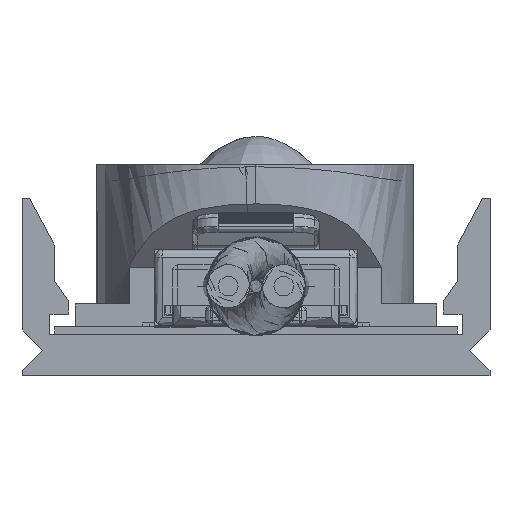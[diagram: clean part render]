
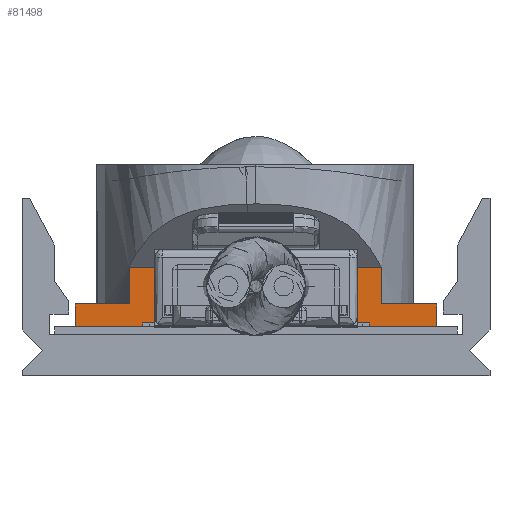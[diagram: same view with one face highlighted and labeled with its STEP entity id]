
A CAD part, left-side view. The second image highlights one B-rep face of the part: STEP entity #81498.
In plain terms, the highlighted planar face has unit normal (-1, 0, 0).
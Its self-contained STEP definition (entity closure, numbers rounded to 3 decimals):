
#1626 = CARTESIAN_POINT ( 'NONE',  ( -6.593, -4.951, 2.36 ) ) ;
#1695 = EDGE_CURVE ( 'NONE', #92420, #58101, #8962, .T. ) ;
#6594 = CARTESIAN_POINT ( 'NONE',  ( -6.593, 12.523, -0.74 ) ) ;
#6977 = DIRECTION ( 'NONE',  ( 0., 1., 0. ) ) ;
#8962 = LINE ( 'NONE', #41757, #102559 ) ;
#9086 = EDGE_CURVE ( 'NONE', #60835, #104367, #88782, .T. ) ;
#10866 = VERTEX_POINT ( 'NONE', #78818 ) ;
#13912 = LINE ( 'NONE', #68345, #107516 ) ;
#15018 = LINE ( 'NONE', #76187, #88841 ) ;
#15025 = EDGE_CURVE ( 'NONE', #39836, #92420, #33095, .T. ) ;
#16459 = CARTESIAN_POINT ( 'NONE',  ( -6.593, 5.012, -0.74 ) ) ;
#16811 = DIRECTION ( 'NONE',  ( 0., -1., 0. ) ) ;
#18877 = CARTESIAN_POINT ( 'NONE',  ( -6.593, 0., 0. ) ) ;
#18958 = ORIENTED_EDGE ( 'NONE', *, *, #26208, .F. ) ;
#25646 = CARTESIAN_POINT ( 'NONE',  ( -6.593, 7.15, 0. ) ) ;
#26208 = EDGE_CURVE ( 'NONE', #10866, #72651, #99198, .T. ) ;
#27923 = VECTOR ( 'NONE', #35132, 1000. ) ;
#28077 = ORIENTED_EDGE ( 'NONE', *, *, #1695, .F. ) ;
#29770 = VECTOR ( 'NONE', #70838, 1000. ) ;
#33095 = LINE ( 'NONE', #96887, #43000 ) ;
#35132 = DIRECTION ( 'NONE',  ( 0., 0., 1. ) ) ;
#36642 = AXIS2_PLACEMENT_3D ( 'NONE', #6594, #60533, #6977 ) ;
#39099 = ORIENTED_EDGE ( 'NONE', *, *, #74191, .F. ) ;
#39836 = VERTEX_POINT ( 'NONE', #98564 ) ;
#41757 = CARTESIAN_POINT ( 'NONE',  ( -6.593, -7.15, -0.74 ) ) ;
#43000 = VECTOR ( 'NONE', #16811, 1000. ) ;
#48151 = CARTESIAN_POINT ( 'NONE',  ( -6.593, 5.012, 0.9 ) ) ;
#50896 = DIRECTION ( 'NONE',  ( 0., -1., 0. ) ) ;
#54542 = EDGE_CURVE ( 'NONE', #112319, #60835, #54883, .T. ) ;
#54883 = LINE ( 'NONE', #16459, #27923 ) ;
#55608 = EDGE_CURVE ( 'NONE', #104367, #39836, #15018, .T. ) ;
#56069 = ORIENTED_EDGE ( 'NONE', *, *, #15025, .F. ) ;
#56218 = VECTOR ( 'NONE', #64862, 1000. ) ;
#58101 = VERTEX_POINT ( 'NONE', #74609 ) ;
#60533 = DIRECTION ( 'NONE',  ( 1., 0., 0. ) ) ;
#60835 = VERTEX_POINT ( 'NONE', #83485 ) ;
#64862 = DIRECTION ( 'NONE',  ( 0., 1., 0. ) ) ;
#68345 = CARTESIAN_POINT ( 'NONE',  ( -6.593, 12.523, 0.9 ) ) ;
#70838 = DIRECTION ( 'NONE',  ( 0., 0., 1. ) ) ;
#72318 = CARTESIAN_POINT ( 'NONE',  ( -6.593, 12.523, 2.36 ) ) ;
#72651 = VERTEX_POINT ( 'NONE', #85379 ) ;
#74191 = EDGE_CURVE ( 'NONE', #58101, #10866, #104402, .T. ) ;
#74609 = CARTESIAN_POINT ( 'NONE',  ( -6.593, -7.15, 0. ) ) ;
#76187 = CARTESIAN_POINT ( 'NONE',  ( -6.593, -4.951, -0.74 ) ) ;
#76377 = ORIENTED_EDGE ( 'NONE', *, *, #92876, .F. ) ;
#78203 = DIRECTION ( 'NONE',  ( 0., 0., -1. ) ) ;
#78771 = PLANE ( 'NONE',  #36642 ) ;
#78818 = CARTESIAN_POINT ( 'NONE',  ( -6.593, 7.15, 0. ) ) ;
#81257 = ORIENTED_EDGE ( 'NONE', *, *, #9086, .F. ) ;
#81498 = ADVANCED_FACE ( 'NONE', ( #102724 ), #78771, .F. ) ;
#83485 = CARTESIAN_POINT ( 'NONE',  ( -6.593, 5.012, 2.36 ) ) ;
#85379 = CARTESIAN_POINT ( 'NONE',  ( -6.593, 7.15, 0.9 ) ) ;
#88782 = LINE ( 'NONE', #72318, #103000 ) ;
#88841 = VECTOR ( 'NONE', #111838, 1000. ) ;
#91291 = DIRECTION ( 'NONE',  ( 0., -1., 0. ) ) ;
#92420 = VERTEX_POINT ( 'NONE', #113069 ) ;
#92876 = EDGE_CURVE ( 'NONE', #72651, #112319, #13912, .T. ) ;
#96887 = CARTESIAN_POINT ( 'NONE',  ( -6.593, 12.523, 0.9 ) ) ;
#98564 = CARTESIAN_POINT ( 'NONE',  ( -6.593, -4.951, 0.9 ) ) ;
#99198 = LINE ( 'NONE', #25646, #29770 ) ;
#102559 = VECTOR ( 'NONE', #78203, 1000. ) ;
#102724 = FACE_OUTER_BOUND ( 'NONE', #117006, .T. ) ;
#103000 = VECTOR ( 'NONE', #91291, 1000. ) ;
#104367 = VERTEX_POINT ( 'NONE', #1626 ) ;
#104402 = LINE ( 'NONE', #18877, #56218 ) ;
#104714 = ORIENTED_EDGE ( 'NONE', *, *, #55608, .F. ) ;
#107516 = VECTOR ( 'NONE', #50896, 1000. ) ;
#111838 = DIRECTION ( 'NONE',  ( 0., 0., -1. ) ) ;
#112319 = VERTEX_POINT ( 'NONE', #48151 ) ;
#113069 = CARTESIAN_POINT ( 'NONE',  ( -6.593, -7.15, 0.9 ) ) ;
#117006 = EDGE_LOOP ( 'NONE', ( #117665, #76377, #18958, #39099, #28077, #56069, #104714, #81257 ) ) ;
#117665 = ORIENTED_EDGE ( 'NONE', *, *, #54542, .F. ) ;
